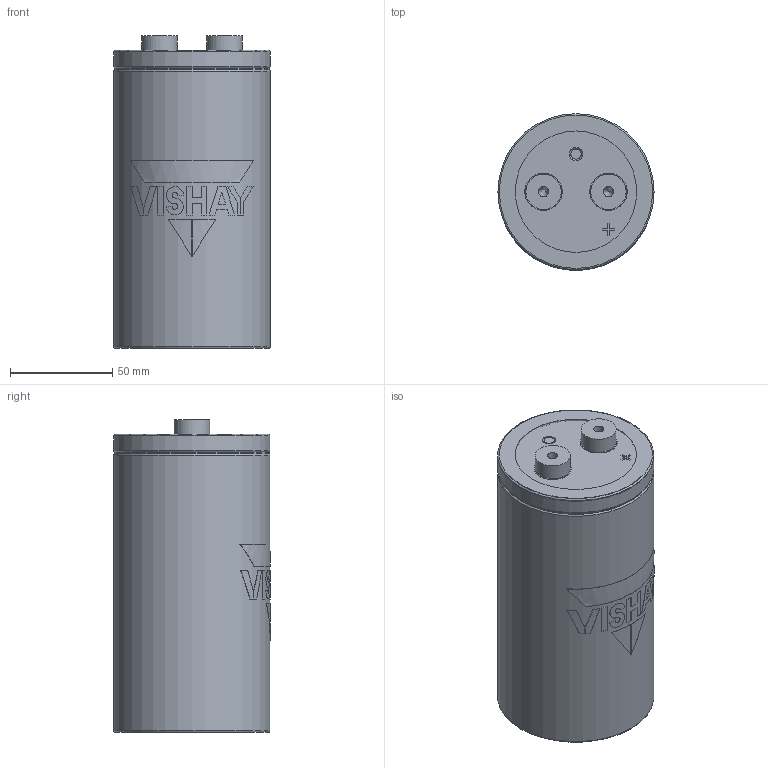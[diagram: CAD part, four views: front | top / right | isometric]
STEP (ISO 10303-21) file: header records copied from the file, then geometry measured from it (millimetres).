
FILE_DESCRIPTION(('FreeCAD Model'),'2;1');
FILE_NAME('C:/Users/tvandesteeg/Documents/Documents/FreeCAD/Stepfiles/ST capacitors/ST_HP_18mm_M6_76x146.step','2020-12-14T17:18:16',('Author'),( ''),'Open CASCADE STEP processor 7.3','FreeCAD','Unknown');
FILE_SCHEMA(('AUTOMOTIVE_DESIGN { 1 0 10303 214 1 1 1 1 }'));
Length unit declared in the file: millimetre
Products named in the file (8): VentBody; TerminalBody_(Mirror_#2); TerminalBody; Disc; LogoPrint; CanBody; TerminalHole; BottomBody
Bounding box: 76.4 x 76.5 x 153 mm (x, y, z)
Volume: 672480.7 mm3; surface area: 72921.5 mm2
Topology: 18 solids, 18 shells, 152 faces, 316 edges, 208 vertices
Faces by surface type: plane 95, cylinder 49, torus 5, cone 3
Full cylindrical faces by diameter (mm): 5 x4, 17.3 x2, 17.8 x7, 18.3 x2, 59.422 x3, 73.6 x2, 75 x1, 76.4 x2
Entity records: 10765 total; most frequent: CARTESIAN_POINT 3371, DIRECTION 1221, ORIENTED_EDGE 628, PCURVE 628, DEFINITIONAL_REPRESENTATION 628, LINE 537, VECTOR 537, EDGE_CURVE 314
